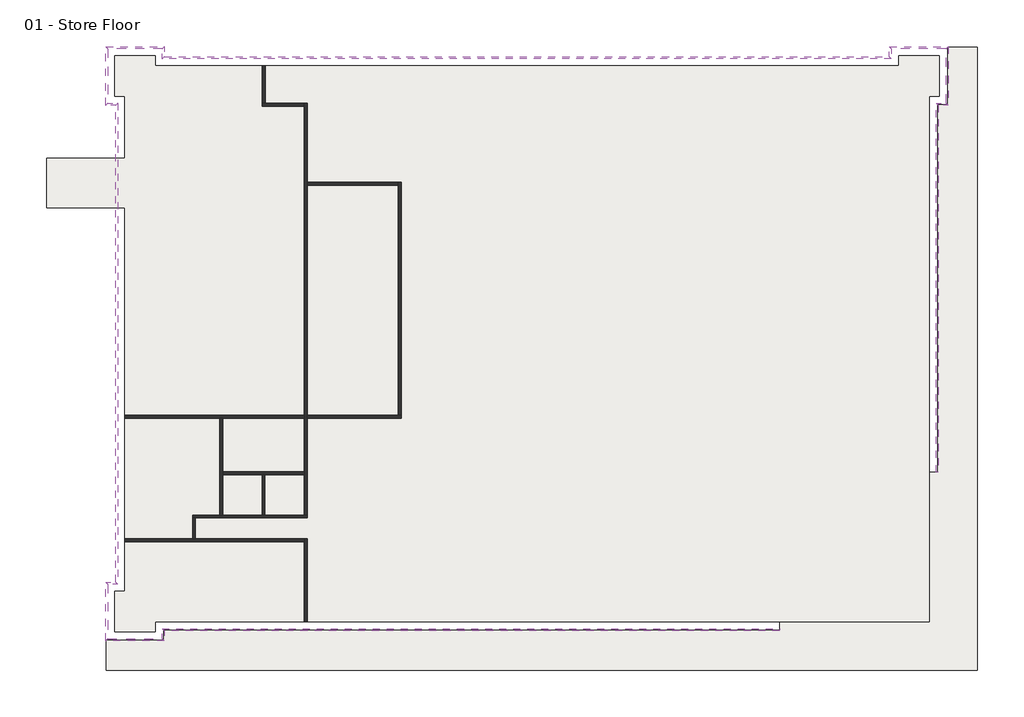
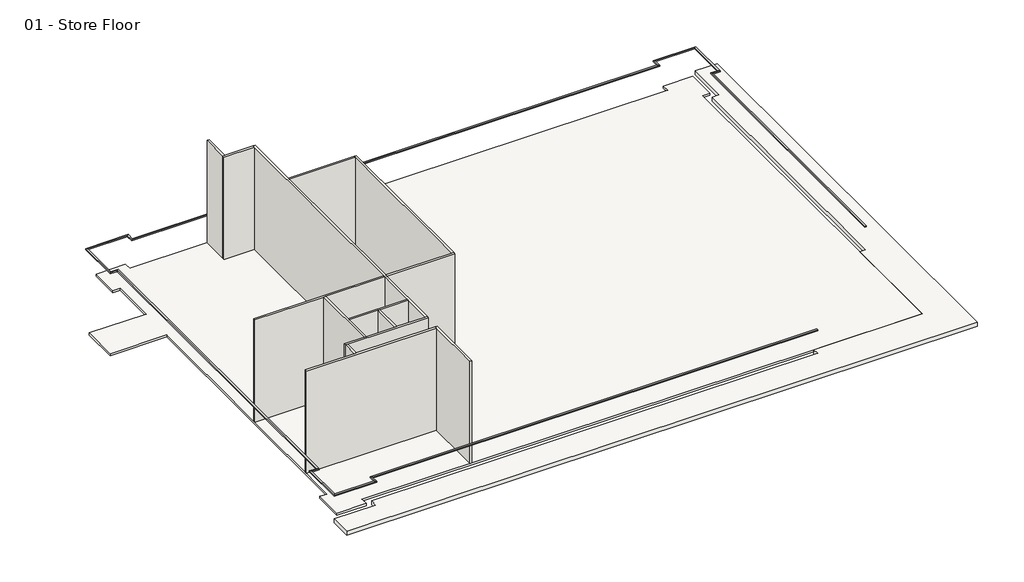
# One storey: 16 proxies, 13 walls, 2 slabs.
"""IFC4 building model written with IfcOpenShell, lengths in millimetres."""

from ifc_helpers import new_model, si_unit, frame, origin, origin_with_axes, place, context, project, spatial, polyline, outline, extrude, faceted_brep, element, save

model = new_model("IFC4")

# Units and contexts
model_context = context("Model", 3, world=origin())
ifc_project = project(units=[si_unit("LENGTHUNIT", "METRE", prefix="MILLI")], contexts=[model_context])

# Site, building, storey
site = spatial("IfcSite", under=ifc_project)
building = spatial("IfcBuilding", under=site)
storey = spatial("IfcBuildingStorey", under=building, Name="01 - Store Floor", Elevation=0.0)

# Proxies
placement = place(None, origin())
element("IfcBuildingElementProxy", 1, Name="Reveals", at=placement, inside=storey, context=model_context, shape_type="SweptSolid", body=[
    extrude(outline(polyline([(10855.5272279, -14331.9313057), (10855.5272279, -14434.4313057), (-20003.9727721, -14434.4313057), (-20106.4727721, -14331.9313057), (10855.5272279, -14331.9313057)])), frame((0.0, 0.0, 1675.0), z_axis=(0.0, 0.0, 1.0), x_axis=(1.0, 0.0, 0.0)), (0.0, 0.0, 1.0), 75.0),
])
element("IfcBuildingElementProxy", 2, Name="Reveals", at=placement, inside=storey, context=model_context, shape_type="SweptSolid", body=[
    extrude(outline(polyline([(-20106.4727721, -14331.9313057), (-20003.9727721, -14434.4313057), (-20003.9727721, -14934.2313057), (-20106.4727721, -14831.7313057), (-20106.4727721, -14331.9313057)])), frame((0.0, 0.0, 1675.0), z_axis=(0.0, 0.0, 1.0), x_axis=(1.0, 0.0, 0.0)), (0.0, 0.0, 1.0), 75.0),
])
element("IfcBuildingElementProxy", 3, Name="Reveals", at=placement, inside=storey, context=model_context, shape_type="SweptSolid", body=[
    extrude(outline(polyline([(-20106.4727721, -14831.7313057), (-20003.9727721, -14934.2313057), (-22946.9727721, -14934.2313057), (-22844.4727721, -14831.7313057), (-20106.4727721, -14831.7313057)])), frame((0.0, 0.0, 1675.0), z_axis=(0.0, 0.0, 1.0), x_axis=(1.0, 0.0, 0.0)), (0.0, 0.0, 1.0), 75.0),
])
element("IfcBuildingElementProxy", 4, Name="Reveals", at=placement, inside=storey, context=model_context, shape_type="SweptSolid", body=[
    extrude(outline(polyline([(-22844.4727721, -14831.7313057), (-22946.9727721, -14934.2313057), (-22946.9727721, -11991.2313057), (-22844.4727721, -12093.7313057), (-22844.4727721, -14831.7313057)])), frame((0.0, 0.0, 1675.0), z_axis=(0.0, 0.0, 1.0), x_axis=(1.0, 0.0, 0.0)), (0.0, 0.0, 1.0), 75.0),
])
element("IfcBuildingElementProxy", 5, Name="Reveals", at=placement, inside=storey, context=model_context, shape_type="SweptSolid", body=[
    extrude(outline(polyline([(-22844.4727721, -12093.7313057), (-22946.9727721, -11991.2313057), (-22446.9727721, -11991.2313057), (-22344.4727721, -12093.7313057), (-22844.4727721, -12093.7313057)])), frame((0.0, 0.0, 1675.0), z_axis=(0.0, 0.0, 1.0), x_axis=(1.0, 0.0, 0.0)), (0.0, 0.0, 1.0), 75.0),
])
element("IfcBuildingElementProxy", 6, Name="Reveals", at=placement, inside=storey, context=model_context, shape_type="SweptSolid", body=[
    extrude(outline(polyline([(-22344.4727721, -12093.7313057), (-22446.9727721, -11991.2313057), (-22446.9727721, 11927.5686943), (-22344.4727721, 12030.0686943), (-22344.4727721, -12093.7313057)])), frame((0.0, 0.0, 1675.0), z_axis=(0.0, 0.0, 1.0), x_axis=(1.0, 0.0, 0.0)), (0.0, 0.0, 1.0), 75.0),
])
element("IfcBuildingElementProxy", 7, Name="Reveals", at=placement, inside=storey, context=model_context, shape_type="SweptSolid", body=[
    extrude(outline(polyline([(-22344.4727721, 12030.0686943), (-22446.9727721, 11927.5686943), (-22946.9727721, 11927.5686943), (-22844.4727721, 12030.0686943), (-22344.4727721, 12030.0686943)])), frame((0.0, 0.0, 1675.0), z_axis=(0.0, 0.0, 1.0), x_axis=(1.0, 0.0, 0.0)), (0.0, 0.0, 1.0), 75.0),
])
element("IfcBuildingElementProxy", 8, Name="Reveals", at=placement, inside=storey, context=model_context, shape_type="SweptSolid", body=[
    extrude(outline(polyline([(-22844.4727721, 12030.0686943), (-22946.9727721, 11927.5686943), (-22946.9727721, 14870.5686943), (-22844.4727721, 14768.0686943), (-22844.4727721, 12030.0686943)])), frame((0.0, 0.0, 1675.0), z_axis=(0.0, 0.0, 1.0), x_axis=(1.0, 0.0, 0.0)), (0.0, 0.0, 1.0), 75.0),
])
element("IfcBuildingElementProxy", 9, Name="Reveals", at=placement, inside=storey, context=model_context, shape_type="SweptSolid", body=[
    extrude(outline(polyline([(-22844.4727721, 14768.0686943), (-22946.9727721, 14870.5686943), (-20003.9727721, 14870.5686943), (-20106.4727721, 14768.0686943), (-22844.4727721, 14768.0686943)])), frame((0.0, 0.0, 1675.0), z_axis=(0.0, 0.0, 1.0), x_axis=(1.0, 0.0, 0.0)), (0.0, 0.0, 1.0), 75.0),
])
element("IfcBuildingElementProxy", 10, Name="Reveals", at=placement, inside=storey, context=model_context, shape_type="SweptSolid", body=[
    extrude(outline(polyline([(-20106.4727721, 14768.0686943), (-20003.9727721, 14870.5686943), (-20003.9727721, 14370.5686943), (-20106.4727721, 14268.0686943), (-20106.4727721, 14768.0686943)])), frame((0.0, 0.0, 1675.0), z_axis=(0.0, 0.0, 1.0), x_axis=(1.0, 0.0, 0.0)), (0.0, 0.0, 1.0), 75.0),
])
element("IfcBuildingElementProxy", 11, Name="Reveals", at=placement, inside=storey, context=model_context, shape_type="SweptSolid", body=[
    extrude(outline(polyline([(-20106.4727721, 14268.0686943), (-20003.9727721, 14370.5686943), (16365.0272279, 14370.5686943), (16467.5272279, 14268.0686943), (-20106.4727721, 14268.0686943)])), frame((0.0, 0.0, 1675.0), z_axis=(0.0, 0.0, 1.0), x_axis=(1.0, 0.0, 0.0)), (0.0, 0.0, 1.0), 75.0),
])
element("IfcBuildingElementProxy", 12, Name="Reveals", at=placement, inside=storey, context=model_context, shape_type="SweptSolid", body=[
    extrude(outline(polyline([(16467.5272279, 14268.0686943), (16365.0272279, 14370.5686943), (16365.0272279, 14870.5686943), (16467.5272279, 14768.0686943), (16467.5272279, 14268.0686943)])), frame((0.0, 0.0, 1675.0), z_axis=(0.0, 0.0, 1.0), x_axis=(1.0, 0.0, 0.0)), (0.0, 0.0, 1.0), 75.0),
])
element("IfcBuildingElementProxy", 13, Name="Reveals", at=placement, inside=storey, context=model_context, shape_type="SweptSolid", body=[
    extrude(outline(polyline([(16467.5272279, 14768.0686943), (16365.0272279, 14870.5686943), (19308.0272279, 14870.5686943), (19205.5272279, 14768.0686943), (16467.5272279, 14768.0686943)])), frame((0.0, 0.0, 1675.0), z_axis=(0.0, 0.0, 1.0), x_axis=(1.0, 0.0, 0.0)), (0.0, 0.0, 1.0), 75.0),
])
element("IfcBuildingElementProxy", 14, Name="Reveals", at=placement, inside=storey, context=model_context, shape_type="SweptSolid", body=[
    extrude(outline(polyline([(19205.5272279, 14768.0686943), (19308.0272279, 14870.5686943), (19308.0272279, 11927.5686943), (19205.5272279, 12030.0686943), (19205.5272279, 14768.0686943)])), frame((0.0, 0.0, 1675.0), z_axis=(0.0, 0.0, 1.0), x_axis=(1.0, 0.0, 0.0)), (0.0, 0.0, 1.0), 75.0),
])
element("IfcBuildingElementProxy", 15, Name="Reveals", at=placement, inside=storey, context=model_context, shape_type="SweptSolid", body=[
    extrude(outline(polyline([(19205.5272279, 12030.0686943), (19308.0272279, 11927.5686943), (18808.0272279, 11927.5686943), (18705.5272279, 12030.0686943), (19205.5272279, 12030.0686943)])), frame((0.0, 0.0, 1675.0), z_axis=(0.0, 0.0, 1.0), x_axis=(1.0, 0.0, 0.0)), (0.0, 0.0, 1.0), 75.0),
])
element("IfcBuildingElementProxy", 16, Name="Reveals", at=placement, inside=storey, context=model_context, shape_type="SweptSolid", body=[
    extrude(outline(polyline([(18705.5272279, 12030.0686943), (18808.0272279, 11927.5686943), (18808.0272279, -6481.9313057), (18705.5272279, -6481.9313057), (18705.5272279, 12030.0686943)])), frame((0.0, 0.0, 1675.0), z_axis=(0.0, 0.0, 1.0), x_axis=(1.0, 0.0, 0.0)), (0.0, 0.0, 1.0), 75.0),
])

# Slabs
element("IfcSlab", 17, ObjectType="Generic 150mm", at=placement, inside=storey, context=model_context, shape_type="SweptSolid", body=[
    extrude(outline(polyline([(16821.5272279, 13914.0686943), (16821.5272279, 14414.0686943), (18851.5272279, 14414.0686943), (18851.5272279, 12384.0686943), (18351.5272279, 12384.0686943), (18351.5272279, -6481.9313057), (18351.5272279, -13977.9313057), (10855.5272279, -13977.9313057), (-20460.4727721, -13977.9313057), (-20460.4727721, -14477.7313057), (-22490.4727721, -14477.7313057), (-22490.4727721, -12447.7313057), (-21990.4727721, -12447.7313057), (-21990.4727721, 6772.0686943), (-25919.4727721, 6772.0686943), (-25919.4727721, 9272.0686943), (-21990.4727721, 9272.0686943), (-21990.4727721, 12384.0686943), (-22490.4727721, 12384.0686943), (-22490.4727721, 14414.0686943), (-20460.4727721, 14414.0686943), (-20460.4727721, 13914.0686943), (16821.5272279, 13914.0686943)])), frame((0.0, 0.0, -150.0), z_axis=(0.0, 0.0, 1.0), x_axis=(1.0, 0.0, 0.0)), (0.0, 0.0, 1.0), 150.0),
])
element("IfcSlab", 18, ObjectType="Generic 300mm", at=placement, inside=storey, context=model_context, shape_type="SweptSolid", body=[
    extrude(outline(polyline([(20780.5272279, -16406.9313057), (-22919.4727721, -16406.9313057), (-22919.4727721, -14906.7313057), (-20031.4727721, -14906.7313057), (-20031.4727721, -14406.9313057), (10855.5272279, -14406.9313057), (10855.5272279, -13977.9313057), (18351.5272279, -13977.9313057), (18351.5272279, -6481.9313057), (18780.5272279, -6481.9313057), (18780.5272279, 11955.0686943), (19280.5272279, 11955.0686943), (19280.5272279, 14843.0686943), (20780.5272279, 14843.0686943), (20780.5272279, -16406.9313057)])), frame((0.0, 0.0, -300.0), z_axis=(0.0, 0.0, 1.0), x_axis=(1.0, 0.0, 0.0)), (0.0, 0.0, 1.0), 300.0),
])

# Walls
element("IfcWall", 19, ObjectType="Interior - 138mm Partition (1-hr)", at=placement, inside=storey, context=model_context, shape_type="Brep", body=[
    faceted_brep([(-12850.2227721, -13977.9313057, 0.0), (-12850.2227721, -9826.1813057, 0.0), (-12850.2227721, -9826.1813057, 7500.0), (-12850.2227721, -13977.9313057, 7500.0), (-12988.7227721, -13977.9313057, 0.0), (-12988.7227721, -13977.9313057, 7500.0), (-12988.7227721, -9964.6813057, 7500.0), (-12988.7227721, -9826.1813057, 7500.0), (-12988.7227721, -9826.1813057, 0.0), (-12988.7227721, -9964.6813057, 0.0)], [[[0, 1, 2, 3]], [[4, 5, 6, 7, 8, 9]], [[1, 0, 4, 9, 8]], [[3, 2, 7, 6, 5]], [[0, 3, 5, 4]], [[2, 1, 8, 7]]]),
])
element("IfcWall", 20, ObjectType="Interior - 138mm Partition (1-hr)", at=placement, inside=storey, context=model_context, shape_type="Brep", body=[
    faceted_brep([(-12988.7227721, 12024.3186943, 0.0), (-14950.2227721, 12024.3186943, 0.0), (-15088.7227721, 12024.3186943, 0.0), (-15088.7227721, 12024.3186943, 7500.0), (-14950.2227721, 12024.3186943, 7500.0), (-12988.7227721, 12024.3186943, 7500.0), (-12988.7227721, 11885.8186943, 0.0), (-12988.7227721, 11885.8186943, 7500.0), (-15088.7227721, 11885.8186943, 7500.0), (-15088.7227721, 11885.8186943, 0.0)], [[[0, 1, 2, 3, 4, 5]], [[6, 7, 8, 9]], [[2, 1, 0, 6, 9]], [[5, 4, 3, 8, 7]], [[0, 5, 7, 6]], [[3, 2, 9, 8]]]),
])
element("IfcWall", 21, ObjectType="Interior - 138mm Partition (1-hr)", at=placement, inside=storey, context=model_context, shape_type="SweptSolid", body=[
    extrude(outline(polyline([(-14950.2227721, 13914.0686943), (-14950.2227721, 12024.3186943), (-15088.7227721, 12024.3186943), (-15088.7227721, 13914.0686943), (-14950.2227721, 13914.0686943)])), origin_with_axes(), (0.0, 0.0, 1.0), 7500.0),
])
element("IfcWall", 22, ObjectType="Interior - 138mm Partition (1-hr)", at=placement, inside=storey, context=model_context, shape_type="Brep", body=[
    faceted_brep([(-12850.2227721, -8637.6813057, 0.0), (-12988.7227721, -8637.6813057, 0.0), (-14965.5977721, -8637.6813057, 0.0), (-15104.0977721, -8637.6813057, 0.0), (-17080.9727721, -8637.6813057, 0.0), (-17219.4727721, -8637.6813057, 0.0), (-18588.7227721, -8637.6813057, 0.0), (-18588.7227721, -8637.6813057, 7500.0), (-17219.4727721, -8637.6813057, 7500.0), (-17080.9727721, -8637.6813057, 7500.0), (-15104.0977721, -8637.6813057, 7500.0), (-14965.5977721, -8637.6813057, 7500.0), (-12988.7227721, -8637.6813057, 7500.0), (-12850.2227721, -8637.6813057, 7500.0), (-12850.2227721, -8776.1813057, 0.0), (-12850.2227721, -8776.1813057, 7500.0), (-18450.2227721, -8776.1813057, 7500.0), (-18588.7227721, -8776.1813057, 7500.0), (-18588.7227721, -8776.1813057, 0.0), (-18450.2227721, -8776.1813057, 0.0)], [[[0, 1, 2, 3, 4, 5, 6, 7, 8, 9, 10, 11, 12, 13]], [[14, 15, 16, 17, 18, 19]], [[6, 5, 4, 3, 2, 1, 0, 14, 19, 18]], [[13, 12, 11, 10, 9, 8, 7, 17, 16, 15]], [[7, 6, 18, 17]], [[0, 13, 15, 14]]]),
])
element("IfcWall", 23, ObjectType="Interior - 138mm Partition (1-hr)", at=placement, inside=storey, context=model_context, shape_type="SweptSolid", body=[
    extrude(outline(polyline([(-18588.7227721, -9826.1813057), (-18588.7227721, -8776.1813057), (-18450.2227721, -8776.1813057), (-18450.2227721, -9826.1813057), (-18588.7227721, -9826.1813057)])), origin_with_axes(), (0.0, 0.0, 1.0), 7500.0),
])
element("IfcWall", 24, ObjectType="Interior - 138mm Partition (1-hr)", at=placement, inside=storey, context=model_context, shape_type="Brep", body=[
    faceted_brep([(-21990.4727721, -9964.6813057, 0.0), (-12988.7227721, -9964.6813057, 0.0), (-12988.7227721, -9964.6813057, 7500.0), (-21990.4727721, -9964.6813057, 7500.0), (-21990.4727721, -9826.1813057, 0.0), (-21990.4727721, -9826.1813057, 7500.0), (-18588.7227721, -9826.1813057, 7500.0), (-18450.2227721, -9826.1813057, 7500.0), (-12988.7227721, -9826.1813057, 7500.0), (-12988.7227721, -9826.1813057, 0.0), (-18450.2227721, -9826.1813057, 0.0), (-18588.7227721, -9826.1813057, 0.0)], [[[0, 1, 2, 3]], [[4, 5, 6, 7, 8, 9, 10, 11]], [[1, 0, 4, 11, 10, 9]], [[3, 2, 8, 7, 6, 5]], [[0, 3, 5, 4]], [[2, 1, 9, 8]]]),
])
element("IfcWall", 25, ObjectType="Interior - 138mm Partition (1-hr)", at=placement, inside=storey, context=model_context, shape_type="Brep", body=[
    faceted_brep([(-17080.9727721, -8637.6813057, 0.0), (-17080.9727721, -6606.9313057, 0.0), (-17080.9727721, -6468.4313057, 0.0), (-17080.9727721, -3776.1813057, 0.0), (-17080.9727721, -3776.1813057, 7500.0), (-17080.9727721, -6468.4313057, 7500.0), (-17080.9727721, -6606.9313057, 7500.0), (-17080.9727721, -8637.6813057, 7500.0), (-17219.4727721, -8637.6813057, 0.0), (-17219.4727721, -8637.6813057, 7500.0), (-17219.4727721, -3776.1813057, 7500.0), (-17219.4727721, -3776.1813057, 0.0)], [[[0, 1, 2, 3, 4, 5, 6, 7]], [[8, 9, 10, 11]], [[3, 2, 1, 0, 8, 11]], [[7, 6, 5, 4, 10, 9]], [[0, 7, 9, 8]], [[4, 3, 11, 10]]]),
])
element("IfcWall", 26, ObjectType="Interior - 138mm Partition (1-hr)", at=placement, inside=storey, context=model_context, shape_type="Brep", body=[
    faceted_brep([(-21990.4727721, -3637.6813057, 0.0), (-21990.4727721, -3637.6813057, 7500.0), (-12988.7227721, -3637.6813057, 7500.0), (-12988.7227721, -3637.6813057, 0.0), (-21990.4727721, -3776.1813057, 7500.0), (-21990.4727721, -3776.1813057, 0.0), (-17219.4727721, -3776.1813057, 0.0), (-17080.9727721, -3776.1813057, 0.0), (-12988.7227721, -3776.1813057, 0.0), (-12988.7227721, -3776.1813057, 7500.0), (-17080.9727721, -3776.1813057, 7500.0), (-17219.4727721, -3776.1813057, 7500.0)], [[[0, 1, 2, 3]], [[4, 5, 6, 7, 8, 9, 10, 11]], [[5, 0, 3, 8, 7, 6]], [[1, 4, 11, 10, 9, 2]], [[1, 0, 5, 4]], [[3, 2, 9, 8]]]),
    faceted_brep([(-8135.7227721, -3637.6813057, 7500.0), (-8135.7227721, -3637.6813057, 0.0), (-8274.2227721, -3637.6813057, 0.0), (-12850.2227721, -3637.6813057, 0.0), (-12850.2227721, -3637.6813057, 7500.0), (-8274.2227721, -3637.6813057, 7500.0), (-8135.7227721, -3776.1813057, 0.0), (-8135.7227721, -3776.1813057, 7500.0), (-12850.2227721, -3776.1813057, 7500.0), (-12850.2227721, -3776.1813057, 0.0)], [[[0, 1, 2, 3, 4, 5]], [[6, 7, 8, 9]], [[1, 6, 9, 3, 2]], [[7, 0, 5, 4, 8]], [[1, 0, 7, 6]], [[4, 3, 9, 8]]]),
])
element("IfcWall", 27, ObjectType="Interior - 138mm Partition (1-hr)", at=placement, inside=storey, context=model_context, shape_type="Brep", body=[
    faceted_brep([(-8135.7227721, -3637.6813057, 0.0), (-8135.7227721, 8062.3186943, 0.0), (-8135.7227721, 8062.3186943, 7500.0), (-8135.7227721, -3637.6813057, 7500.0), (-8274.2227721, -3637.6813057, 0.0), (-8274.2227721, -3637.6813057, 7500.0), (-8274.2227721, 7923.8186943, 7500.0), (-8274.2227721, 8062.3186943, 7500.0), (-8274.2227721, 8062.3186943, 0.0), (-8274.2227721, 7923.8186943, 0.0)], [[[0, 1, 2, 3]], [[4, 5, 6, 7, 8, 9]], [[1, 0, 4, 9, 8]], [[3, 2, 7, 6, 5]], [[0, 3, 5, 4]], [[2, 1, 8, 7]]]),
])
element("IfcWall", 28, ObjectType="Interior - 138mm Partition (1-hr)", at=placement, inside=storey, context=model_context, shape_type="SweptSolid", body=[
    extrude(outline(polyline([(-12850.2227721, 8062.3186943), (-8274.2227721, 8062.3186943), (-8274.2227721, 7923.8186943), (-12850.2227721, 7923.8186943), (-12850.2227721, 8062.3186943)])), origin_with_axes(), (0.0, 0.0, 1.0), 7500.0),
])
element("IfcWall", 29, ObjectType="Interior - 138mm Partition (1-hr)", at=placement, inside=storey, context=model_context, shape_type="Brep", body=[
    faceted_brep([(-12988.7227721, -6468.4313057, 0.0), (-17080.9727721, -6468.4313057, 0.0), (-17080.9727721, -6468.4313057, 7500.0), (-12988.7227721, -6468.4313057, 7500.0), (-12988.7227721, -6606.9313057, 0.0), (-12988.7227721, -6606.9313057, 7500.0), (-14965.5977721, -6606.9313057, 7500.0), (-15104.0977721, -6606.9313057, 7500.0), (-17080.9727721, -6606.9313057, 7500.0), (-17080.9727721, -6606.9313057, 0.0), (-15104.0977721, -6606.9313057, 0.0), (-14965.5977721, -6606.9313057, 0.0)], [[[0, 1, 2, 3]], [[4, 5, 6, 7, 8, 9, 10, 11]], [[1, 0, 4, 11, 10, 9]], [[3, 2, 8, 7, 6, 5]], [[0, 3, 5, 4]], [[2, 1, 9, 8]]]),
])
element("IfcWall", 30, ObjectType="Interior - 138mm Partition (1-hr)", at=placement, inside=storey, context=model_context, shape_type="SweptSolid", body=[
    extrude(outline(polyline([(-15104.0977721, -8637.6813057), (-15104.0977721, -6606.9313057), (-14965.5977721, -6606.9313057), (-14965.5977721, -8637.6813057), (-15104.0977721, -8637.6813057)])), origin_with_axes(), (0.0, 0.0, 1.0), 7500.0),
])
element("IfcWall", 31, ObjectType="Interior - 138mm Partition (1-hr)", at=placement, inside=storey, context=model_context, shape_type="Brep", body=[
    faceted_brep([(-12850.2227721, -8637.6813057, 0.0), (-12850.2227721, -3776.1813057, 0.0), (-12850.2227721, -3637.6813057, 0.0), (-12850.2227721, 7923.8186943, 0.0), (-12850.2227721, 8062.3186943, 0.0), (-12850.2227721, 12024.3186943, 0.0), (-12850.2227721, 12024.3186943, 7500.0), (-12850.2227721, 8062.3186943, 7500.0), (-12850.2227721, 7923.8186943, 7500.0), (-12850.2227721, -3637.6813057, 7500.0), (-12850.2227721, -3776.1813057, 7500.0), (-12850.2227721, -8637.6813057, 7500.0), (-12988.7227721, -8637.6813057, 0.0), (-12988.7227721, -8637.6813057, 7500.0), (-12988.7227721, -6606.9313057, 7500.0), (-12988.7227721, -6468.4313057, 7500.0), (-12988.7227721, -3776.1813057, 7500.0), (-12988.7227721, -3637.6813057, 7500.0), (-12988.7227721, 11885.8186943, 7500.0), (-12988.7227721, 12024.3186943, 7500.0), (-12988.7227721, 12024.3186943, 0.0), (-12988.7227721, 11885.8186943, 0.0), (-12988.7227721, -3637.6813057, 0.0), (-12988.7227721, -3776.1813057, 0.0), (-12988.7227721, -6468.4313057, 0.0), (-12988.7227721, -6606.9313057, 0.0)], [[[0, 1, 2, 3, 4, 5, 6, 7, 8, 9, 10, 11]], [[12, 13, 14, 15, 16, 17, 18, 19, 20, 21, 22, 23, 24, 25]], [[5, 4, 3, 2, 1, 0, 12, 25, 24, 23, 22, 21, 20]], [[11, 10, 9, 8, 7, 6, 19, 18, 17, 16, 15, 14, 13]], [[6, 5, 20, 19]], [[0, 11, 13, 12]]]),
])

save(model, "model.ifc")
